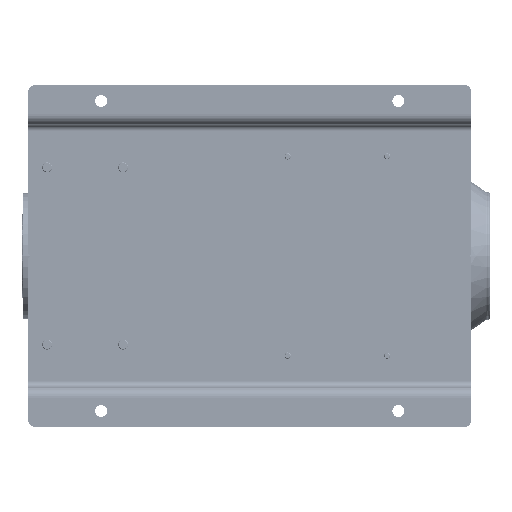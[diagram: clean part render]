
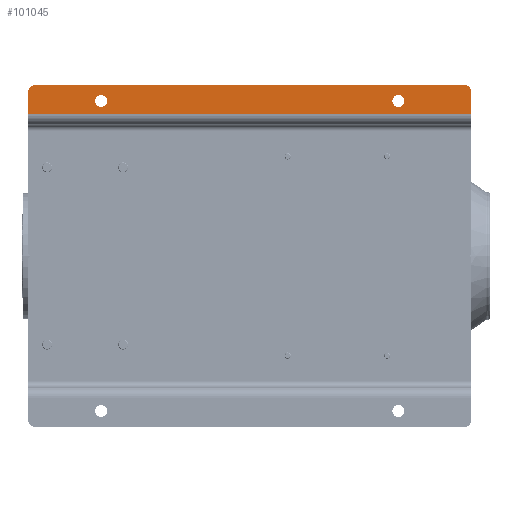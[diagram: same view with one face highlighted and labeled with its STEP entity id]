
A CAD part, front view. The second image highlights one B-rep face of the part: STEP entity #101045.
In plain terms, the highlighted planar face has unit normal (0, -1, 0).
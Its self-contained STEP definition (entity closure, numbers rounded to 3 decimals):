
#2796 = DIRECTION ( 'NONE',  ( 0., 0., -1. ) ) ;
#3061 = EDGE_CURVE ( 'NONE', #17446, #10154, #58708, .T. ) ;
#3259 = CARTESIAN_POINT ( 'NONE',  ( 515., 0., -124.5 ) ) ;
#3372 = ORIENTED_EDGE ( 'NONE', *, *, #48180, .T. ) ;
#10154 = VERTEX_POINT ( 'NONE', #114731 ) ;
#15176 = LINE ( 'NONE', #165792, #20632 ) ;
#16701 = VERTEX_POINT ( 'NONE', #17051 ) ;
#17051 = CARTESIAN_POINT ( 'NONE',  ( 515., 0., -594.5 ) ) ;
#17446 = VERTEX_POINT ( 'NONE', #175580 ) ;
#17476 = VERTEX_POINT ( 'NONE', #54845 ) ;
#18574 = CARTESIAN_POINT ( 'NONE',  ( 515., 0., -115. ) ) ;
#20632 = VECTOR ( 'NONE', #46050, 1000. ) ;
#21267 = ORIENTED_EDGE ( 'NONE', *, *, #109638, .T. ) ;
#21387 = CARTESIAN_POINT ( 'NONE',  ( 540., 0., -690. ) ) ;
#25389 = LINE ( 'NONE', #41766, #58914 ) ;
#27329 = AXIS2_PLACEMENT_3D ( 'NONE', #180408, #106038, #167792 ) ;
#27650 = CIRCLE ( 'NONE', #169528, 9.5 ) ;
#29495 = DIRECTION ( 'NONE',  ( 0., 0., -1. ) ) ;
#29559 = CARTESIAN_POINT ( 'NONE',  ( 530., 0., -10. ) ) ;
#30199 = EDGE_CURVE ( 'NONE', #148901, #64166, #42770, .T. ) ;
#30541 = VECTOR ( 'NONE', #45166, 1000. ) ;
#31176 = ORIENTED_EDGE ( 'NONE', *, *, #146672, .T. ) ;
#31798 = CARTESIAN_POINT ( 'NONE',  ( 540., 0., -10. ) ) ;
#32092 = DIRECTION ( 'NONE',  ( 0., 0., -1. ) ) ;
#33542 = VERTEX_POINT ( 'NONE', #31798 ) ;
#41766 = CARTESIAN_POINT ( 'NONE',  ( 477., 0., -700. ) ) ;
#42770 = CIRCLE ( 'NONE', #27329, 10. ) ;
#45166 = DIRECTION ( 'NONE',  ( 1., 0., 0. ) ) ;
#45576 = ORIENTED_EDGE ( 'NONE', *, *, #70532, .T. ) ;
#46050 = DIRECTION ( 'NONE',  ( 0., 0., 1. ) ) ;
#46603 = DIRECTION ( 'NONE',  ( 0., 1., 0. ) ) ;
#48180 = EDGE_CURVE ( 'NONE', #64166, #33542, #15176, .T. ) ;
#51283 = AXIS2_PLACEMENT_3D ( 'NONE', #69035, #82598, #140587 ) ;
#52253 = EDGE_CURVE ( 'NONE', #189986, #125661, #27650, .T. ) ;
#54731 = FACE_BOUND ( 'NONE', #59720, .T. ) ;
#54845 = CARTESIAN_POINT ( 'NONE',  ( 515., 0., -575.5 ) ) ;
#56147 = ORIENTED_EDGE ( 'NONE', *, *, #30199, .T. ) ;
#56574 = DIRECTION ( 'NONE',  ( 0., 1., 0. ) ) ;
#57481 = VERTEX_POINT ( 'NONE', #164084 ) ;
#58708 = LINE ( 'NONE', #134056, #30541 ) ;
#58914 = VECTOR ( 'NONE', #84328, 1000. ) ;
#59720 = EDGE_LOOP ( 'NONE', ( #21267, #178831 ) ) ;
#63536 = ORIENTED_EDGE ( 'NONE', *, *, #52253, .T. ) ;
#64166 = VERTEX_POINT ( 'NONE', #21387 ) ;
#64284 = VECTOR ( 'NONE', #2796, 1000. ) ;
#69035 = CARTESIAN_POINT ( 'NONE',  ( 515., 0., -585. ) ) ;
#70532 = EDGE_CURVE ( 'NONE', #57481, #148901, #25389, .T. ) ;
#74826 = DIRECTION ( 'NONE',  ( 0., 0., -1. ) ) ;
#75984 = CARTESIAN_POINT ( 'NONE',  ( 515., 0., -105.5 ) ) ;
#76789 = CIRCLE ( 'NONE', #163116, 10. ) ;
#79810 = ORIENTED_EDGE ( 'NONE', *, *, #125288, .T. ) ;
#80495 = AXIS2_PLACEMENT_3D ( 'NONE', #162735, #132812, #74826 ) ;
#80747 = EDGE_CURVE ( 'NONE', #125661, #189986, #145701, .T. ) ;
#82598 = DIRECTION ( 'NONE',  ( 0., 1., 0. ) ) ;
#84328 = DIRECTION ( 'NONE',  ( 1., 0., 0. ) ) ;
#86395 = ORIENTED_EDGE ( 'NONE', *, *, #3061, .F. ) ;
#87520 = CARTESIAN_POINT ( 'NONE',  ( 515., 0., -115. ) ) ;
#88022 = EDGE_CURVE ( 'NONE', #16701, #17476, #115998, .T. ) ;
#92766 = CIRCLE ( 'NONE', #80495, 9.5 ) ;
#94411 = CARTESIAN_POINT ( 'NONE',  ( 530., 0., -700. ) ) ;
#96322 = AXIS2_PLACEMENT_3D ( 'NONE', #18574, #46603, #32092 ) ;
#97299 = PLANE ( 'NONE',  #102058 ) ;
#97605 = ORIENTED_EDGE ( 'NONE', *, *, #80747, .T. ) ;
#101045 = ADVANCED_FACE ( 'NONE', ( #157180, #54731, #113687 ), #97299, .T. ) ;
#102058 = AXIS2_PLACEMENT_3D ( 'NONE', #172608, #188059, #142700 ) ;
#104260 = CARTESIAN_POINT ( 'NONE',  ( 495., 0., -700. ) ) ;
#106038 = DIRECTION ( 'NONE',  ( 0., -1., 0. ) ) ;
#109638 = EDGE_CURVE ( 'NONE', #17476, #16701, #92766, .T. ) ;
#112878 = EDGE_LOOP ( 'NONE', ( #86395, #79810, #45576, #56147, #3372, #31176 ) ) ;
#113687 = FACE_OUTER_BOUND ( 'NONE', #112878, .T. ) ;
#114731 = CARTESIAN_POINT ( 'NONE',  ( 530., 0., 0. ) ) ;
#115998 = CIRCLE ( 'NONE', #51283, 9.5 ) ;
#125288 = EDGE_CURVE ( 'NONE', #17446, #57481, #166970, .T. ) ;
#125661 = VERTEX_POINT ( 'NONE', #75984 ) ;
#129162 = DIRECTION ( 'NONE',  ( 0., 0., -1. ) ) ;
#132812 = DIRECTION ( 'NONE',  ( 0., 1., 0. ) ) ;
#134056 = CARTESIAN_POINT ( 'NONE',  ( 477., 0., 0. ) ) ;
#140587 = DIRECTION ( 'NONE',  ( 0., 0., -1. ) ) ;
#142700 = DIRECTION ( 'NONE',  ( 0., 0., -1. ) ) ;
#145701 = CIRCLE ( 'NONE', #96322, 9.5 ) ;
#146672 = EDGE_CURVE ( 'NONE', #33542, #10154, #76789, .T. ) ;
#148901 = VERTEX_POINT ( 'NONE', #94411 ) ;
#157180 = FACE_BOUND ( 'NONE', #170752, .T. ) ;
#162735 = CARTESIAN_POINT ( 'NONE',  ( 515., 0., -585. ) ) ;
#163116 = AXIS2_PLACEMENT_3D ( 'NONE', #29559, #189947, #129162 ) ;
#164084 = CARTESIAN_POINT ( 'NONE',  ( 495., 0., -700. ) ) ;
#165792 = CARTESIAN_POINT ( 'NONE',  ( 540., 0., -700. ) ) ;
#166970 = LINE ( 'NONE', #104260, #64284 ) ;
#167792 = DIRECTION ( 'NONE',  ( 0., 0., -1. ) ) ;
#169528 = AXIS2_PLACEMENT_3D ( 'NONE', #87520, #56574, #29495 ) ;
#170752 = EDGE_LOOP ( 'NONE', ( #97605, #63536 ) ) ;
#172608 = CARTESIAN_POINT ( 'NONE',  ( 477., 0., -700. ) ) ;
#175580 = CARTESIAN_POINT ( 'NONE',  ( 495., 0., 0. ) ) ;
#178831 = ORIENTED_EDGE ( 'NONE', *, *, #88022, .T. ) ;
#180408 = CARTESIAN_POINT ( 'NONE',  ( 530., 0., -690. ) ) ;
#188059 = DIRECTION ( 'NONE',  ( 0., -1., 0. ) ) ;
#189947 = DIRECTION ( 'NONE',  ( 0., -1., 0. ) ) ;
#189986 = VERTEX_POINT ( 'NONE', #3259 ) ;
